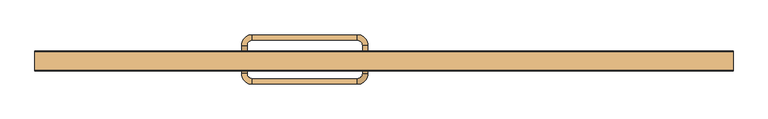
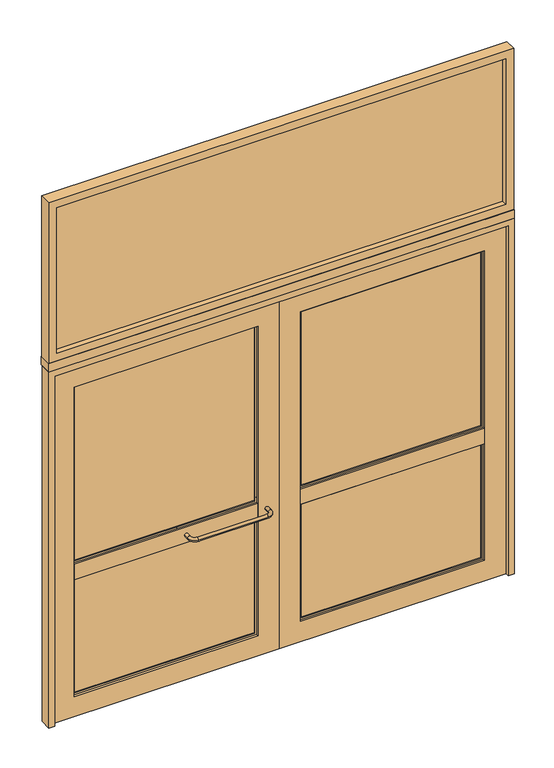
"""IFC4 building model written with IfcOpenShell, lengths in millimetres: door geometry, A1 Puerta batiente doble  VF superior : A1.2 Puerta batiente doble  VF superior 260x310."""

from ifc_helpers import new_model, si_unit, point, frame, origin, place, context, project, spatial, polyline, circle_curve, ellipse_curve, trimmed, outline, extrude, source, transform, mapped, element, save
from ifc_brep_helpers import plane_surface, cylinder_surface, revolved_surface, advanced_brep


def door_7d41e657(model_context):
    return source(origin(), model_context, "Body", "SolidModel", [
        advanced_brep(
        [(-80.0, -11.0, 855.0), (-60.0, -11.0, 855.0), (-60.0, -41.0, 855.0), (-80.0, -41.0, 855.0), (-100.0, -61.0, 855.0), (-100.0, -81.0, 855.0), (-490.0, -81.0, 855.0), (-490.0, -61.0, 855.0), (-510.0, -41.0, 855.0), (-530.0, -41.0, 855.0), (-510.0, -11.0, 855.0), (-530.0, -11.0, 855.0)],
        [
            (0, 1, circle_curve(frame((-70.0, -11.0, 855.0), z_axis=(0.0, 1.0, 0.0), x_axis=(1.0, 0.0, 0.0)), 10.0)),
            (1, 0, circle_curve(frame((-70.0, -11.0, 855.0), z_axis=(0.0, 1.0, 0.0), x_axis=(1.0, 0.0, 0.0)), 10.0)),
            (1, 2),
            (2, 3, circle_curve(frame((-70.0, -41.0, 855.0), z_axis=(0.0, 1.0, 0.0), x_axis=(1.0, 0.0, 0.0)), 10.0)),
            (3, 0),
            (3, 2, circle_curve(frame((-70.0, -41.0, 855.0), z_axis=(0.0, 1.0, 0.0), x_axis=(1.0, 0.0, 0.0)), 10.0)),
            (4, 3, circle_curve(frame((-100.0, -41.0, 855.0), z_axis=(0.0, 0.0, 1.0), x_axis=(1.0, 0.0, 0.0)), 20.0)),
            (2, 5, circle_curve(frame((-100.0, -41.0, 855.0), z_axis=(0.0, 0.0, -1.0), x_axis=(1.0, 0.0, 0.0)), 40.0)),
            (5, 4, circle_curve(frame((-100.0, -71.0, 855.0), z_axis=(1.0, 0.0, 0.0), x_axis=(0.0, -1.0, 0.0)), 10.0)),
            (4, 5, circle_curve(frame((-100.0, -71.0, 855.0), z_axis=(1.0, 0.0, 0.0), x_axis=(0.0, -1.0, 0.0)), 10.0)),
            (5, 6),
            (6, 7, circle_curve(frame((-490.0, -71.0, 855.0), z_axis=(1.0, 0.0, 0.0), x_axis=(0.0, -1.0, 0.0)), 10.0)),
            (7, 4),
            (7, 6, circle_curve(frame((-490.0, -71.0, 855.0), z_axis=(1.0, 0.0, 0.0), x_axis=(0.0, -1.0, 0.0)), 10.0)),
            (8, 7, circle_curve(frame((-490.0, -41.0, 855.0), z_axis=(0.0, 0.0, 1.0), x_axis=(0.0, -1.0, 0.0)), 20.0)),
            (6, 9, circle_curve(frame((-490.0, -41.0, 855.0), z_axis=(0.0, 0.0, -1.0), x_axis=(0.0, -1.0, 0.0)), 40.0)),
            (9, 8, circle_curve(frame((-520.0, -41.0, 855.0), z_axis=(0.0, -1.0, 0.0), x_axis=(-1.0, 0.0, 0.0)), 10.0)),
            (8, 9, circle_curve(frame((-520.0, -41.0, 855.0), z_axis=(0.0, -1.0, 0.0), x_axis=(-1.0, 0.0, 0.0)), 10.0)),
            (10, 11, circle_curve(frame((-520.0, -11.0, 855.0), z_axis=(0.0, 1.0, 0.0), x_axis=(-1.0, 0.0, 0.0)), 10.0)),
            (11, 10, circle_curve(frame((-520.0, -11.0, 855.0), z_axis=(0.0, 1.0, 0.0), x_axis=(-1.0, 0.0, 0.0)), 10.0)),
            (9, 11),
            (10, 8),
        ],
        [
            plane_surface(frame((-70.0, -11.0, 855.0), z_axis=(0.0, 1.0, 0.0), x_axis=(0.0, 0.0, 1.0))),
            cylinder_surface(frame((-70.0, -11.0, 855.0), z_axis=(0.0, 1.0, 0.0), x_axis=(1.0, 0.0, 0.0)), 10.0),
            revolved_surface(trimmed(ellipse_curve(frame((-70.0, -41.0, 855.0), z_axis=(0.0, 1.0, 0.0), x_axis=(1.0, 0.0, 0.0)), 10.0, 10.0), [point((-60.0, -41.0, 855.0))], [point((-80.0, -41.0, 855.0))], True, "CARTESIAN"), (-100.0, -41.0, 855.0), (0.0, 0.0, -1.0)),
            revolved_surface(trimmed(ellipse_curve(frame((-70.0, -41.0, 855.0), z_axis=(0.0, 1.0, 0.0), x_axis=(1.0, 0.0, 0.0)), 10.0, 10.0), [point((-80.0, -41.0, 855.0))], [point((-60.0, -41.0, 855.0))], True, "CARTESIAN"), (-100.0, -41.0, 855.0), (0.0, 0.0, -1.0)),
            cylinder_surface(frame((-100.0, -71.0, 855.0), z_axis=(1.0, 0.0, 0.0), x_axis=(0.0, -1.0, 0.0)), 10.0),
            revolved_surface(trimmed(ellipse_curve(frame((-490.0, -71.0, 855.0), z_axis=(1.0, 0.0, 0.0), x_axis=(0.0, -1.0, 0.0)), 10.0, 10.0), [point((-490.0, -81.0, 855.0))], [point((-490.0, -61.0, 855.0))], True, "CARTESIAN"), (-490.0, -41.0, 855.0), (0.0, 0.0, -1.0)),
            revolved_surface(trimmed(ellipse_curve(frame((-490.0, -71.0, 855.0), z_axis=(1.0, 0.0, 0.0), x_axis=(0.0, -1.0, 0.0)), 10.0, 10.0), [point((-490.0, -61.0, 855.0))], [point((-490.0, -81.0, 855.0))], True, "CARTESIAN"), (-490.0, -41.0, 855.0), (0.0, 0.0, -1.0)),
            plane_surface(frame((-520.0, -11.0, 855.0), z_axis=(0.0, 1.0, 0.0), x_axis=(0.0, 0.0, 1.0))),
            cylinder_surface(frame((-520.0, -41.0, 855.0), z_axis=(0.0, -1.0, 0.0), x_axis=(-1.0, 0.0, 0.0)), 10.0),
        ],
        [
            (0, [[1, 2]]),
            (1, [[-2, 3, 4, 5]]),
            (1, [[-1, -5, 6, -3]]),
            (2, [[7, -4, 8, 9]]),
            (3, [[-8, -6, -7, 10]]),
            (4, [[-9, 11, 12, 13]]),
            (4, [[-10, -13, 14, -11]]),
            (5, [[15, -12, 16, 17]]),
            (6, [[-16, -14, -15, 18]]),
            (7, [[19, 20]]),
            (8, [[-17, 21, -19, 22]]),
            (8, [[-18, -22, -20, -21]]),
        ],
    ),
        advanced_brep(
        [(-60.0, 33.0, 855.0), (-80.0, 33.0, 855.0), (-60.0, 63.0, 855.0), (-80.0, 63.0, 855.0), (-100.0, 83.0, 855.0), (-100.0, 103.0, 855.0), (-490.0, 103.0, 855.0), (-490.0, 83.0, 855.0), (-510.0, 63.0, 855.0), (-530.0, 63.0, 855.0), (-530.0, 33.0, 855.0), (-510.0, 33.0, 855.0)],
        [
            (0, 1, circle_curve(frame((-70.0, 33.0, 855.0), z_axis=(0.0, -1.0, 0.0), x_axis=(-1.0, 0.0, 0.0)), 10.0)),
            (1, 0, circle_curve(frame((-70.0, 33.0, 855.0), z_axis=(0.0, -1.0, 0.0), x_axis=(-1.0, 0.0, 0.0)), 10.0)),
            (0, 2),
            (2, 3, circle_curve(frame((-70.0, 63.0, 855.0), z_axis=(0.0, -1.0, 0.0), x_axis=(-1.0, 0.0, 0.0)), 10.0)),
            (3, 1),
            (3, 2, circle_curve(frame((-70.0, 63.0, 855.0), z_axis=(0.0, -1.0, 0.0), x_axis=(-1.0, 0.0, 0.0)), 10.0)),
            (4, 3, circle_curve(frame((-100.0, 63.0, 855.0), z_axis=(0.0, 0.0, -1.0), x_axis=(1.0, 0.0, 0.0)), 20.0)),
            (2, 5, circle_curve(frame((-100.0, 63.0, 855.0), z_axis=(0.0, 0.0, 1.0), x_axis=(1.0, 0.0, 0.0)), 40.0)),
            (5, 4, circle_curve(frame((-100.0, 93.0, 855.0), z_axis=(1.0, 0.0, 0.0), x_axis=(0.0, -1.0, 0.0)), 10.0)),
            (4, 5, circle_curve(frame((-100.0, 93.0, 855.0), z_axis=(1.0, 0.0, 0.0), x_axis=(0.0, -1.0, 0.0)), 10.0)),
            (5, 6),
            (6, 7, circle_curve(frame((-490.0, 93.0, 855.0), z_axis=(1.0, 0.0, 0.0), x_axis=(0.0, -1.0, 0.0)), 10.0)),
            (7, 4),
            (7, 6, circle_curve(frame((-490.0, 93.0, 855.0), z_axis=(1.0, 0.0, 0.0), x_axis=(0.0, -1.0, 0.0)), 10.0)),
            (8, 7, circle_curve(frame((-490.0, 63.0, 855.0), z_axis=(0.0, 0.0, -1.0), x_axis=(0.0, 1.0, 0.0)), 20.0)),
            (6, 9, circle_curve(frame((-490.0, 63.0, 855.0), z_axis=(0.0, 0.0, 1.0), x_axis=(0.0, 1.0, 0.0)), 40.0)),
            (9, 8, circle_curve(frame((-520.0, 63.0, 855.0), z_axis=(0.0, 1.0, 0.0), x_axis=(1.0, 0.0, 0.0)), 10.0)),
            (8, 9, circle_curve(frame((-520.0, 63.0, 855.0), z_axis=(0.0, 1.0, 0.0), x_axis=(1.0, 0.0, 0.0)), 10.0)),
            (10, 11, circle_curve(frame((-520.0, 33.0, 855.0), z_axis=(0.0, -1.0, 0.0), x_axis=(1.0, 0.0, 0.0)), 10.0)),
            (11, 10, circle_curve(frame((-520.0, 33.0, 855.0), z_axis=(0.0, -1.0, 0.0), x_axis=(1.0, 0.0, 0.0)), 10.0)),
            (9, 10),
            (11, 8),
        ],
        [
            plane_surface(frame((-70.0, 33.0, 855.0), z_axis=(0.0, -1.0, 0.0), x_axis=(0.0, 0.0, 1.0))),
            cylinder_surface(frame((-70.0, 33.0, 855.0), z_axis=(0.0, -1.0, 0.0), x_axis=(-1.0, 0.0, 0.0)), 10.0),
            revolved_surface(trimmed(ellipse_curve(frame((-70.0, 63.0, 855.0), z_axis=(0.0, -1.0, 0.0), x_axis=(-1.0, 0.0, 0.0)), 10.0, 10.0), [point((-60.0, 63.0, 855.0))], [point((-80.0, 63.0, 855.0))], True, "CARTESIAN"), (-100.0, 63.0, 855.0), (0.0, 0.0, 1.0)),
            revolved_surface(trimmed(ellipse_curve(frame((-70.0, 63.0, 855.0), z_axis=(0.0, -1.0, 0.0), x_axis=(-1.0, 0.0, 0.0)), 10.0, 10.0), [point((-80.0, 63.0, 855.0))], [point((-60.0, 63.0, 855.0))], True, "CARTESIAN"), (-100.0, 63.0, 855.0), (0.0, 0.0, 1.0)),
            cylinder_surface(frame((-100.0, 93.0, 855.0), z_axis=(1.0, 0.0, 0.0), x_axis=(0.0, -1.0, 0.0)), 10.0),
            revolved_surface(trimmed(ellipse_curve(frame((-490.0, 93.0, 855.0), z_axis=(1.0, 0.0, 0.0), x_axis=(0.0, -1.0, 0.0)), 10.0, 10.0), [point((-490.0, 103.0, 855.0))], [point((-490.0, 83.0, 855.0))], True, "CARTESIAN"), (-490.0, 63.0, 855.0), (0.0, 0.0, 1.0)),
            revolved_surface(trimmed(ellipse_curve(frame((-490.0, 93.0, 855.0), z_axis=(1.0, 0.0, 0.0), x_axis=(0.0, -1.0, 0.0)), 10.0, 10.0), [point((-490.0, 83.0, 855.0))], [point((-490.0, 103.0, 855.0))], True, "CARTESIAN"), (-490.0, 63.0, 855.0), (0.0, 0.0, 1.0)),
            plane_surface(frame((-520.0, 33.0, 855.0), z_axis=(0.0, -1.0, 0.0), x_axis=(0.0, 0.0, 1.0))),
            cylinder_surface(frame((-520.0, 63.0, 855.0), z_axis=(0.0, 1.0, 0.0), x_axis=(1.0, 0.0, 0.0)), 10.0),
        ],
        [
            (0, [[1, 2]]),
            (1, [[-1, 3, 4, 5]]),
            (1, [[-2, -5, 6, -3]]),
            (2, [[7, -4, 8, 9]]),
            (3, [[-8, -6, -7, 10]]),
            (4, [[-9, 11, 12, 13]]),
            (4, [[-10, -13, 14, -11]]),
            (5, [[15, -12, 16, 17]]),
            (6, [[-16, -14, -15, 18]]),
            (7, [[19, 20]]),
            (8, [[-17, 21, -20, 22]]),
            (8, [[-18, -22, -19, -21]]),
        ],
    ),
        extrude(outline(polyline([(1255.0, 1.5), (-1255.0, 1.5), (-1255.0, 7.5), (1255.0, 7.5), (1255.0, 1.5)])), frame((0.0, 0.0, 2195.0), z_axis=(0.0, 0.0, 1.0), x_axis=(1.0, 0.0, 0.0)), (0.0, 0.0, 1.0), 860.0),
        extrude(outline(polyline([(3100.0, -1300.0), (2150.0, -1300.0), (2150.0, 1300.0), (3100.0, 1300.0), (3100.0, -1300.0)]), holes=[polyline([(3055.0, -1255.0), (3055.0, 1255.0), (2195.0, 1255.0), (2195.0, -1255.0), (3055.0, -1255.0)])]), frame((0.0, -28.5, 0.0), z_axis=(0.0, 1.0, 0.0), x_axis=(0.0, 0.0, 1.0)), (0.0, 0.0, 1.0), 66.0),
        extrude(outline(polyline([(-130.0, 8.0), (-1137.0, 8.0), (-1137.0, 14.0), (-130.0, 14.0), (-130.0, 8.0)])), frame((0.0, 0.0, 910.0), z_axis=(0.0, 0.0, 1.0), x_axis=(1.0, 0.0, 0.0)), (0.0, 0.0, 1.0), 1027.0),
        extrude(outline(polyline([(-130.0, 8.0), (-1137.0, 8.0), (-1137.0, 14.0), (-130.0, 14.0), (-130.0, 8.0)])), frame((0.0, 0.0, 130.0), z_axis=(0.0, 0.0, 1.0), x_axis=(1.0, 0.0, 0.0)), (0.0, 0.0, 1.0), 670.0),
        extrude(outline(polyline([(1947.0, -1147.0), (900.0, -1147.0), (900.0, -120.0), (1947.0, -120.0), (1947.0, -1147.0)]), holes=[polyline([(1937.0, -1137.0), (1937.0, -130.0), (910.0, -130.0), (910.0, -1137.0), (1937.0, -1137.0)])]), frame((0.0, 1.0, 0.0), z_axis=(0.0, 1.0, 0.0), x_axis=(0.0, 0.0, 1.0)), (0.0, 0.0, 1.0), 20.0),
        extrude(outline(polyline([(810.0, -1147.0), (120.0, -1147.0), (120.0, -120.0), (810.0, -120.0), (810.0, -1147.0)]), holes=[polyline([(800.0, -1137.0), (800.0, -130.0), (130.0, -130.0), (130.0, -1137.0), (800.0, -1137.0)])]), frame((0.0, 1.0, 0.0), z_axis=(0.0, 1.0, 0.0), x_axis=(0.0, 0.0, 1.0)), (0.0, 0.0, 1.0), 20.0),
        extrude(outline(polyline([(-120.0, -11.0), (-1147.0, -11.0), (-1147.0, 33.0), (-120.0, 33.0), (-120.0, -11.0)])), frame((0.0, 0.0, 810.0), z_axis=(0.0, 0.0, 1.0), x_axis=(1.0, 0.0, 0.0)), (0.0, 0.0, 1.0), 90.0),
        extrude(outline(polyline([(2067.0, -1267.0), (0.0, -1267.0), (0.0, 0.0), (2067.0, 0.0), (2067.0, -1267.0)]), holes=[polyline([(1947.0, -1147.0), (1947.0, -120.0), (120.0, -120.0), (120.0, -1147.0), (1947.0, -1147.0)])]), frame((0.0, -11.0, 0.0), z_axis=(0.0, 1.0, 0.0), x_axis=(0.0, 0.0, 1.0)), (0.0, 0.0, 1.0), 44.0),
        extrude(outline(polyline([(1137.0, 8.0), (130.0, 8.0), (130.0, 14.0), (1137.0, 14.0), (1137.0, 8.0)])), frame((0.0, 0.0, 910.0), z_axis=(0.0, 0.0, 1.0), x_axis=(1.0, 0.0, 0.0)), (0.0, 0.0, 1.0), 1027.0),
        extrude(outline(polyline([(1137.0, 8.0), (130.0, 8.0), (130.0, 14.0), (1137.0, 14.0), (1137.0, 8.0)])), frame((0.0, 0.0, 130.0), z_axis=(0.0, 0.0, 1.0), x_axis=(1.0, 0.0, 0.0)), (0.0, 0.0, 1.0), 670.0),
        extrude(outline(polyline([(1947.0, 120.0), (900.0, 120.0), (900.0, 1147.0), (1947.0, 1147.0), (1947.0, 120.0)]), holes=[polyline([(1937.0, 130.0), (1937.0, 1137.0), (910.0, 1137.0), (910.0, 130.0), (1937.0, 130.0)])]), frame((0.0, 1.0, 0.0), z_axis=(0.0, 1.0, 0.0), x_axis=(0.0, 0.0, 1.0)), (0.0, 0.0, 1.0), 20.0),
        extrude(outline(polyline([(810.0, 120.0), (120.0, 120.0), (120.0, 1147.0), (810.0, 1147.0), (810.0, 120.0)]), holes=[polyline([(800.0, 130.0), (800.0, 1137.0), (130.0, 1137.0), (130.0, 130.0), (800.0, 130.0)])]), frame((0.0, 1.0, 0.0), z_axis=(0.0, 1.0, 0.0), x_axis=(0.0, 0.0, 1.0)), (0.0, 0.0, 1.0), 20.0),
        extrude(outline(polyline([(1147.0, -11.0), (120.0, -11.0), (120.0, 33.0), (1147.0, 33.0), (1147.0, -11.0)])), frame((0.0, 0.0, 810.0), z_axis=(0.0, 0.0, 1.0), x_axis=(1.0, 0.0, 0.0)), (0.0, 0.0, 1.0), 90.0),
        extrude(outline(polyline([(2067.0, 0.0), (0.0, 0.0), (0.0, 1267.0), (2067.0, 1267.0), (2067.0, 0.0)]), holes=[polyline([(1947.0, 120.0), (1947.0, 1147.0), (120.0, 1147.0), (120.0, 120.0), (1947.0, 120.0)])]), frame((0.0, -11.0, 0.0), z_axis=(0.0, 1.0, 0.0), x_axis=(0.0, 0.0, 1.0)), (0.0, 0.0, 1.0), 44.0),
        extrude(outline(polyline([(2100.0, 1300.0), (2100.0, -1300.0), (0.0, -1300.0), (0.0, -1267.0), (2067.0, -1267.0), (2067.0, 1267.0), (0.0, 1267.0), (0.0, 1300.0), (2100.0, 1300.0)])), frame((0.0, -33.0, 0.0), z_axis=(0.0, 1.0, 0.0), x_axis=(0.0, 0.0, 1.0)), (0.0, 0.0, 1.0), 66.0),
        extrude(outline(polyline([(1300.0, -33.0), (-1300.0, -33.0), (-1300.0, 42.0), (1300.0, 42.0), (1300.0, -33.0)])), frame((0.0, 0.0, 2100.0), z_axis=(0.0, 0.0, 1.0), x_axis=(1.0, 0.0, 0.0)), (0.0, 0.0, 1.0), 50.0),
    ])


if __name__ == "__main__":
    model = new_model("IFC4")
    model_context = context("Model", 3, world=origin())
    ifc_project = project(units=[si_unit("LENGTHUNIT", "METRE", prefix="MILLI")], contexts=[model_context])
    site = spatial("IfcSite", under=ifc_project)
    building = spatial("IfcBuilding", under=site)
    placement = place(None, origin())
    door_shape = door_7d41e657(model_context)
    element("IfcDoor", 1, ObjectType="A1 Puerta batiente doble  VF superior : A1.2 Puerta batiente doble  VF superior 260x310", at=placement, inside=building, context=model_context, shape_type="MappedRepresentation", body=[
        mapped(door_shape, transform((0.0, 0.0, 0.0), x_axis=(1.0, 0.0, 0.0), y_axis=(0.0, 1.0, 0.0), z_axis=(0.0, 0.0, 1.0))),
    ])
    save(model, "model.ifc")
